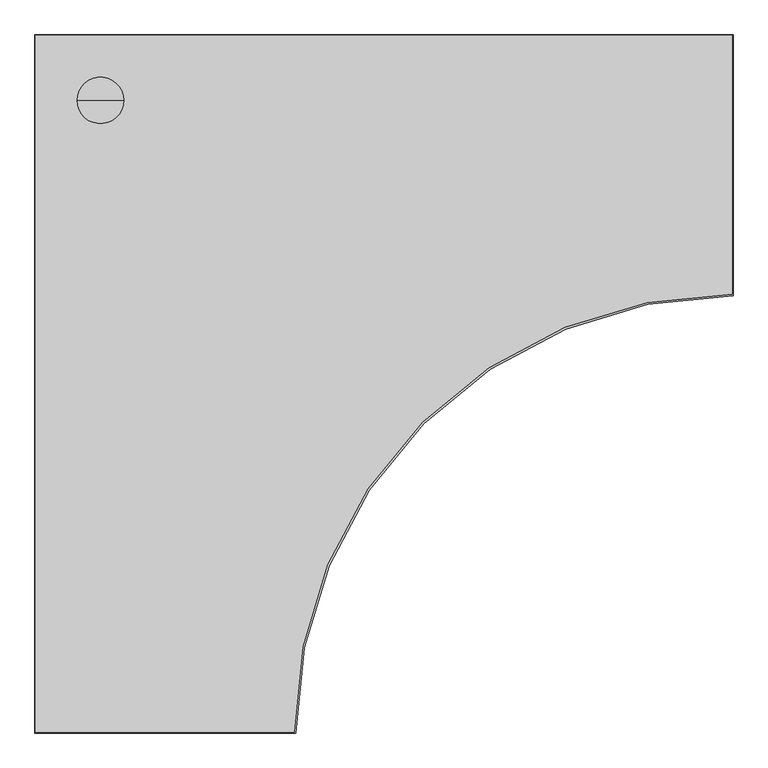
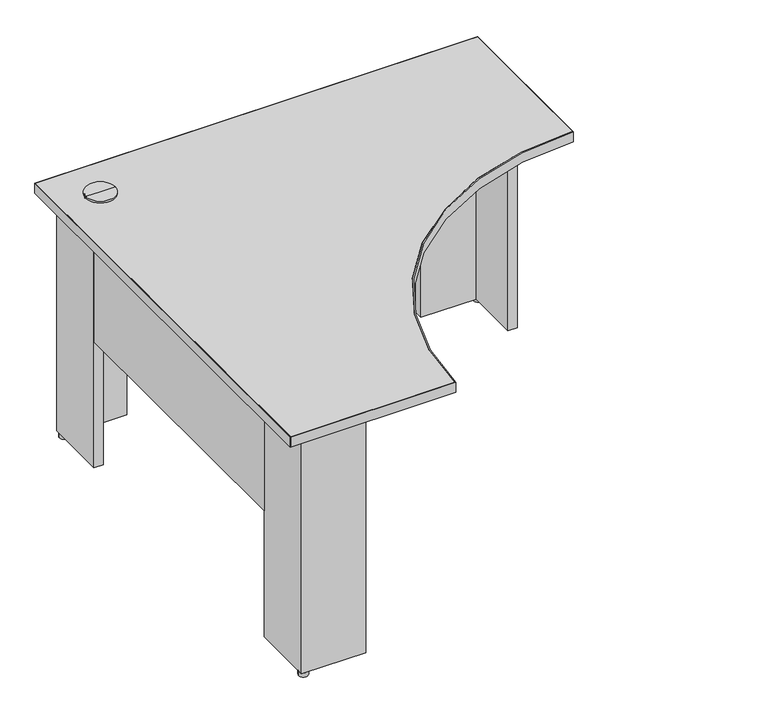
"""IFC4 building model written with IfcOpenShell, lengths in millimetres: furniture geometry, Steelcase - Kick Freestanding - Desk - Curve Corner - Partial Height Modesty Panel : 18D x 48W - LPL."""

from ifc_helpers import new_model, si_unit, point, frame, frame_2d, origin, origin_with_axes, place, context, project, spatial, polyline, circle_curve, trimmed, segment, composite_curve, outline, extrude, source, transform, mapped, element, save
from ifc_brep_helpers import plane_surface, cylinder_surface, advanced_brep


def furniture_bf584776(model_context):
    return source(origin(), model_context, "Body", "SolidModel", [
        extrude(outline(polyline([(1026.4393822, -63.5), (1026.4393822, -38.1), (1204.2393579, -38.1), (1204.2393579, -215.8999939), (1178.3313463, -215.8999939), (1178.3313463, -63.5), (1026.4393822, -63.5)])), frame((0.0, 0.0, 12.446), z_axis=(0.0, 0.0, 1.0), x_axis=(1.0, 0.0, 0.0)), (0.0, 0.0, 1.0), 682.498),
        extrude(outline(polyline([(215.8999939, -63.5), (63.5, -63.5), (63.5, -215.8999939), (38.1, -215.8999939), (38.1, -38.1), (215.8999939, -38.1), (215.8999939, -63.5)])), frame((0.0, 0.0, 12.446), z_axis=(0.0, 0.0, 1.0), x_axis=(1.0, 0.0, 0.0)), (0.0, 0.0, 1.0), 682.498),
        advanced_brep(
        [(114.3, -114.3, 728.98), (154.94, -114.3, 728.98), (73.66, -114.3, 728.98), (76.1699693, -114.3, 694.944), (152.4300307, -114.3, 694.944), (114.3, -114.3, 694.944), (76.1699693, -114.3, 723.9), (152.4300307, -114.3, 723.9), (73.66, -114.3, 723.9), (154.94, -114.3, 723.9)],
        [
            (0, 1),
            (1, 2, circle_curve(frame((114.3, -114.3, 728.98), z_axis=(0.0, 0.0, 1.0), x_axis=(1.0, 0.0, 0.0)), 40.64)),
            (2, 0),
            (2, 1, circle_curve(frame((114.3, -114.3, 728.98), z_axis=(0.0, 0.0, 1.0), x_axis=(1.0, 0.0, 0.0)), 40.64)),
            (3, 4, circle_curve(frame((114.3, -114.3, 694.944), z_axis=(0.0, 0.0, -1.0), x_axis=(1.0, 0.0, 0.0)), 38.1300307)),
            (4, 5),
            (5, 3),
            (4, 3, circle_curve(frame((114.3, -114.3, 694.944), z_axis=(0.0, 0.0, -1.0), x_axis=(1.0, 0.0, 0.0)), 38.1300307)),
            (6, 7, circle_curve(frame((114.3, -114.3, 723.9), z_axis=(0.0, 0.0, -1.0), x_axis=(1.0, 0.0, 0.0)), 38.1300307)),
            (7, 4),
            (3, 6),
            (7, 6, circle_curve(frame((114.3, -114.3, 723.9), z_axis=(0.0, 0.0, -1.0), x_axis=(1.0, 0.0, 0.0)), 38.1300307)),
            (8, 9, circle_curve(frame((114.3, -114.3, 723.9), z_axis=(0.0, 0.0, -1.0), x_axis=(1.0, 0.0, 0.0)), 40.64)),
            (9, 7),
            (6, 8),
            (9, 8, circle_curve(frame((114.3, -114.3, 723.9), z_axis=(0.0, 0.0, -1.0), x_axis=(1.0, 0.0, 0.0)), 40.64)),
            (1, 9),
            (8, 2),
        ],
        [
            plane_surface(frame((114.3, -114.3, 728.98), z_axis=(0.0, 0.0, 1.0), x_axis=(1.0, 0.0, 0.0))),
            plane_surface(frame((114.3, -114.3, 694.944), z_axis=(0.0, 0.0, -1.0), x_axis=(1.0, 0.0, 0.0))),
            cylinder_surface(frame((114.3, -114.3, 728.98), z_axis=(0.0, 0.0, 1.0), x_axis=(1.0, 0.0, 0.0)), 38.1300307),
            plane_surface(frame((114.3, -114.3, 723.9), z_axis=(0.0, 0.0, -1.0), x_axis=(1.0, 0.0, 0.0))),
            cylinder_surface(frame((114.3, -114.3, 728.98), z_axis=(0.0, 0.0, 1.0), x_axis=(1.0, 0.0, 0.0)), 40.64),
        ],
        [
            (0, [[1, 2, 3]]),
            (0, [[-3, 4, -1]]),
            (1, [[5, 6, 7]]),
            (1, [[8, -7, -6]]),
            (2, [[9, 10, -5, 11]]),
            (2, [[12, -11, -8, -10]]),
            (3, [[13, 14, -9, 15]]),
            (3, [[16, -15, -12, -14]]),
            (4, [[-2, 17, -13, 18]]),
            (4, [[-4, -18, -16, -17]]),
        ],
    ),
        extrude(outline(composite_curve([segment(trimmed(circle_curve(frame_2d((50.8, -50.8)), 12.7), [point((38.1, -50.8))], [point((63.5, -50.8))], False, "CARTESIAN"), True, "CONTINUOUS"), segment(trimmed(circle_curve(frame_2d((50.8, -50.8)), 12.7), [point((63.5, -50.8))], [point((38.1, -50.8))], False, "CARTESIAN"), True, "CONTINUOUS")], self_intersect=False)), origin_with_axes(), (0.0, 0.0, 1.0), 12.446),
        extrude(outline(composite_curve([segment(trimmed(circle_curve(frame_2d((50.8, -1192.5300073)), 12.7484998), [point((38.0515002, -1192.5300073))], [point((63.5484998, -1192.5300073))], False, "CARTESIAN"), True, "CONTINUOUS"), segment(trimmed(circle_curve(frame_2d((50.8, -1192.5300073)), 12.7484998), [point((63.5484998, -1192.5300073))], [point((38.0515002, -1192.5300073))], False, "CARTESIAN"), True, "CONTINUOUS")], self_intersect=False)), origin_with_axes(), (0.0, 0.0, 1.0), 12.446),
        extrude(outline(composite_curve([segment(trimmed(circle_curve(frame_2d((1191.2853521, -50.8)), 12.7), [point((1178.5853521, -50.8))], [point((1203.9853521, -50.8))], False, "CARTESIAN"), True, "CONTINUOUS"), segment(trimmed(circle_curve(frame_2d((1191.2853521, -50.8)), 12.7), [point((1203.9853521, -50.8))], [point((1178.5853521, -50.8))], False, "CARTESIAN"), True, "CONTINUOUS")], self_intersect=False)), origin_with_axes(), (0.0, 0.0, 1.0), 12.446),
        extrude(outline(polyline([(63.5, -215.8999939), (63.5, -1027.4300194), (38.1, -1027.4300194), (38.1, -215.8999939), (63.5, -215.8999939)])), frame((0.0, 0.0, 379.476), z_axis=(0.0, 0.0, 1.0), x_axis=(1.0, 0.0, 0.0)), (0.0, 0.0, 1.0), 315.468),
        extrude(outline(polyline([(1026.4393822, -38.1), (1026.4393822, -63.5), (215.8999939, -63.5), (215.8999939, -38.1), (1026.4393822, -38.1)])), frame((0.0, 0.0, 379.476), z_axis=(0.0, 0.0, 1.0), x_axis=(1.0, 0.0, 0.0)), (0.0, 0.0, 1.0), 315.468),
        extrude(outline(polyline([(215.8999939, -1179.8300194), (215.8999939, -1205.2299952), (38.1, -1205.2299952), (38.1, -1027.4300194), (63.5, -1027.4300194), (63.5, -1179.8300194), (215.8999939, -1179.8300194)])), frame((0.0, 0.0, 12.446), z_axis=(0.0, 0.0, 1.0), x_axis=(1.0, 0.0, 0.0)), (0.0, 0.0, 1.0), 682.498),
        extrude(outline(composite_curve([segment(polyline([(0.9906, -1218.2093628), (0.9906, -0.9906), (1218.2093628, -0.9906), (1218.2093628, -452.9354109)]), True, "CONTINUOUS"), segment(trimmed(circle_curve(frame_2d((1216.9393458, -1216.9393458)), 764.0049905), [point((1218.2093628, -452.9354109))], [point((452.9354109, -1218.2093628))], True, "CARTESIAN"), True, "CONTINUOUS"), segment(polyline([(452.9354109, -1218.2093628), (0.9906, -1218.2093628)]), True, "CONTINUOUS")], self_intersect=False)), frame((0.0, 0.0, 694.944), z_axis=(0.0, 0.0, 1.0), x_axis=(1.0, 0.0, 0.0)), (0.0, 0.0, 1.0), 28.956),
        extrude(outline(composite_curve([segment(polyline([(1219.2, 0.0), (1219.2, -455.932629)]), True, "CONTINUOUS"), segment(trimmed(circle_curve(frame_2d((1217.929983, -1217.929983)), 761.9984124), [point((1219.2, -455.932629))], [point((455.932629, -1219.2))], True, "CARTESIAN"), True, "CONTINUOUS"), segment(polyline([(455.932629, -1219.2), (0.0, -1219.2), (0.0, 0.0), (1219.2, 0.0)]), True, "CONTINUOUS")], self_intersect=False), holes=[composite_curve([segment(polyline([(1218.2093628, -0.9906), (0.9906, -0.9906), (0.9906, -1218.2093628), (452.9354109, -1218.2093628)]), True, "CONTINUOUS"), segment(trimmed(circle_curve(frame_2d((1216.9393458, -1216.9393458)), 764.0049905), [point((452.9354109, -1218.2093628))], [point((1218.2093628, -452.9354109))], False, "CARTESIAN"), True, "CONTINUOUS"), segment(polyline([(1218.2093628, -452.9354109), (1218.2093628, -0.9906)]), True, "CONTINUOUS")], self_intersect=False)]), frame((0.0, 0.0, 694.944), z_axis=(0.0, 0.0, 1.0), x_axis=(1.0, 0.0, 0.0)), (0.0, 0.0, 1.0), 28.956),
    ])


if __name__ == "__main__":
    model = new_model("IFC4")
    model_context = context("Model", 3, world=origin())
    ifc_project = project(units=[si_unit("LENGTHUNIT", "METRE", prefix="MILLI")], contexts=[model_context])
    site = spatial("IfcSite", under=ifc_project)
    building = spatial("IfcBuilding", under=site)
    placement = place(None, origin())
    furniture_shape = furniture_bf584776(model_context)
    element("IfcFurniture", 1, ObjectType="Steelcase - Kick Freestanding - Desk - Curve Corner - Partial Height Modesty Panel : 18D x 48W - LPL", at=placement, inside=building, context=model_context, shape_type="MappedRepresentation", body=[
        mapped(furniture_shape, transform((0.0, 0.0, 0.0), x_axis=(1.0, 0.0, 0.0), y_axis=(0.0, 1.0, 0.0), z_axis=(0.0, 0.0, 1.0))),
    ])
    save(model, "model.ifc")
